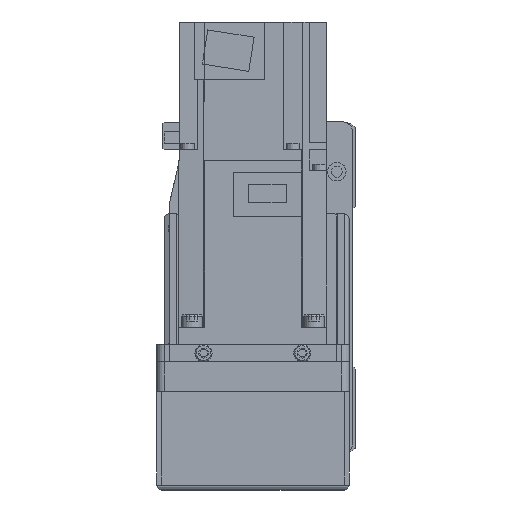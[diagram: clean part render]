
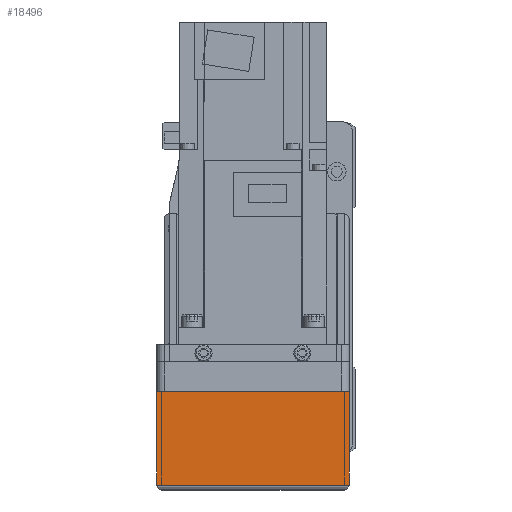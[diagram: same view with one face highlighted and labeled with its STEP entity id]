
A CAD part, left-side view. The second image highlights one B-rep face of the part: STEP entity #18496.
In plain terms, the highlighted planar face has unit normal (-1, 0, 0).
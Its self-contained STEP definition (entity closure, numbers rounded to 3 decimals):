
#2768=ORIENTED_EDGE('',*,*,#7431,.F.);
#2769=ORIENTED_EDGE('',*,*,#7432,.F.);
#2770=ORIENTED_EDGE('',*,*,#7433,.T.);
#2771=ORIENTED_EDGE('',*,*,#7434,.F.);
#7431=EDGE_CURVE('',#9861,#9852,#11770,.T.);
#7432=EDGE_CURVE('',#9878,#9861,#11771,.T.);
#7433=EDGE_CURVE('',#9878,#9879,#11772,.T.);
#7434=EDGE_CURVE('',#9852,#9879,#11773,.T.);
#9852=VERTEX_POINT('',#28390);
#9861=VERTEX_POINT('',#28408);
#9878=VERTEX_POINT('',#28456);
#9879=VERTEX_POINT('',#28458);
#11770=LINE('',#28454,#13413);
#11771=LINE('',#28455,#13414);
#11772=LINE('',#28457,#13415);
#11773=LINE('',#28459,#13416);
#13413=VECTOR('',#22780,1000.);
#13414=VECTOR('',#22781,1000.);
#13415=VECTOR('',#22782,1000.);
#13416=VECTOR('',#22783,1000.);
#14888=EDGE_LOOP('',(#2768,#2769,#2770,#2771));
#16393=FACE_BOUND('',#14888,.T.);
#17739=PLANE('',#19826);
#18496=ADVANCED_FACE('',(#16393),#17739,.F.);
#19826=AXIS2_PLACEMENT_3D('',#28453,#22778,#22779);
#22778=DIRECTION('',(1.,0.,0.));
#22779=DIRECTION('',(0.,0.,-1.));
#22780=DIRECTION('',(0.,-1.,0.));
#22781=DIRECTION('',(0.,0.,1.));
#22782=DIRECTION('',(0.,-1.,0.));
#22783=DIRECTION('',(0.,0.,-1.));
#28390=CARTESIAN_POINT('',(-158.,-39.,-12.1));
#28408=CARTESIAN_POINT('',(-158.,39.,-12.1));
#28453=CARTESIAN_POINT('',(-158.,36.,7.));
#28454=CARTESIAN_POINT('',(-158.,50.,-12.1));
#28455=CARTESIAN_POINT('',(-158.,39.,-50.));
#28456=CARTESIAN_POINT('',(-158.,39.,-50.));
#28457=CARTESIAN_POINT('',(-158.,40.,-50.));
#28458=CARTESIAN_POINT('',(-158.,-39.,-50.));
#28459=CARTESIAN_POINT('',(-158.,-39.,-12.1));
